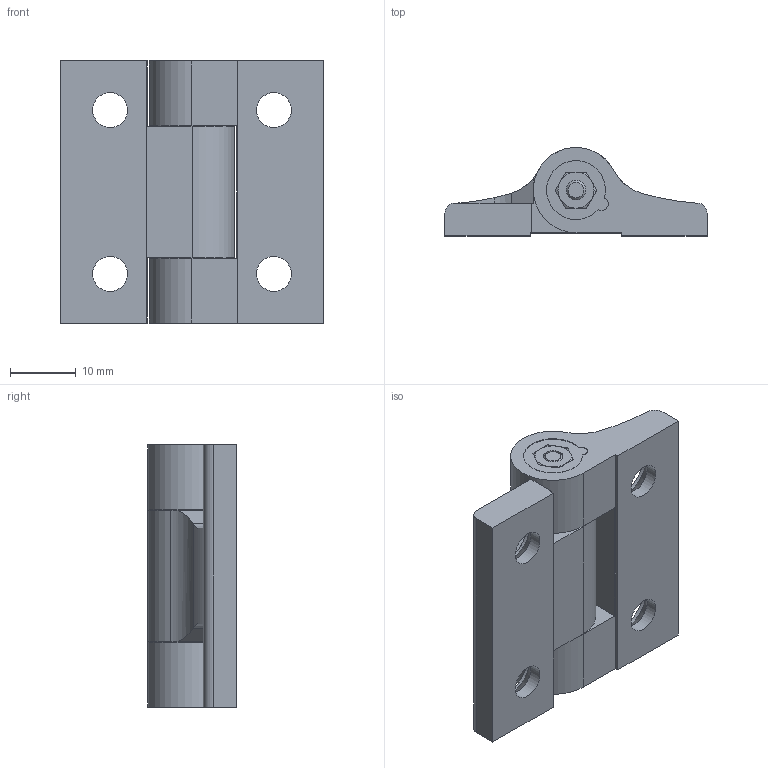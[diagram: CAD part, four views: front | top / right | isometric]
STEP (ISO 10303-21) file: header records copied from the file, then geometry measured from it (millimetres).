
FILE_DESCRIPTION( ( 'STEP AP203' ), '1' );
FILE_NAME( 'C:/Temp/Ganter_Step_05_03_2020/data/3_3/gn_437/Hinge GN 437-ZD-40-40-A-SR (0).stp', '2020-03-12T11:57:29', ( 'License CC BY-ND 4.0' ), ( 'CADENAS' ), ' ', 'PARTsolutions', ' ' );
FILE_SCHEMA( ( 'CONFIG_CONTROL_DESIGN' ) );
Length unit declared in the file: millimetre
Products named in the file (3): Hinge GN 437-ZD-40-40-A-SR (0); _Hinge GN 437-ZD-40-40-A-SR-1; _Scharnier GN 437-ZD-40-40-A-SR (0)-2
Assembly tree (2 placements, depth 2):
  Hinge GN 437-ZD-40-40-A-SR (0)
    _Hinge GN 437-ZD-40-40-A-SR-1
    _Scharnier GN 437-ZD-40-40-A-SR (0)-2
Bounding box: 40 x 13.48 x 40 mm (x, y, z)
Volume: 10285.9 mm3; surface area: 6644.1 mm2
Topology: 2 solids, 2 shells, 112 faces, 272 edges, 171 vertices
Faces by surface type: plane 68, cylinder 28, cone 15, torus 1
Full cylindrical faces by diameter (mm): 3 x2, 3.2 x2, 5.3 x4, 5.5 x1, 6 x1, 10.4 x4
Entity records: 3267 total; most frequent: CARTESIAN_POINT 620, DIRECTION 529, ORIENTED_EDGE 486, EDGE_CURVE 243, AXIS2_PLACEMENT_3D 191, VERTEX_POINT 166, EDGE_LOOP 155, LINE 147
